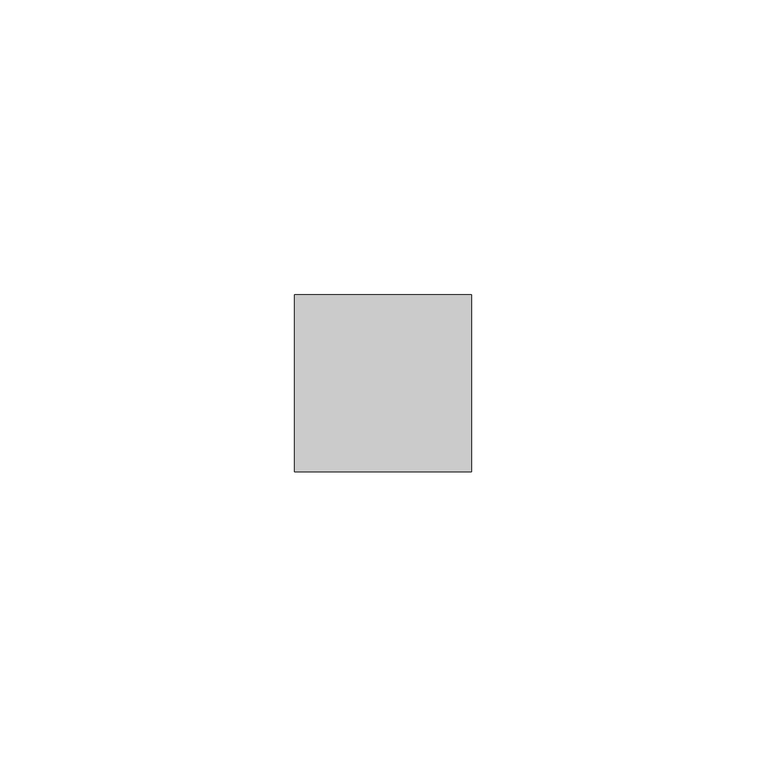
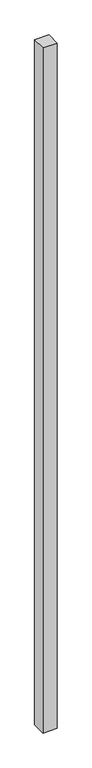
"""IFC4 building model written with IfcOpenShell, lengths in millimetres: member geometry, 矩形竖梃 : 30mm 正方形."""

import ifcopenshell
import ifcopenshell.guid

model = None  # the IFC model being written
_history = None  # IfcOwnerHistory: only IFC2X3 demands one
_inside = {}  # id of a spatial element -> (the spatial element, [elements in it])
_under = {}  # id of a project, library or spatial element -> (it, [spatial elements below it])
_declared = {}  # id of a project -> (the project, [libraries it declares])
_typed = {}  # id of a type object -> (the type object, [elements of that type])
_made_of = {}  # id of a material, layer set ... -> (it, [elements and type objects made of it])


def new_model(schema):
    """Start an empty IFC model of exactly this schema.

    Asked for "IFC4X3", IfcOpenShell would pick the latest addendum, in which some entities
    have other attributes; the version numbers below select the first issue.
    IFC2X3 requires an IfcOwnerHistory on every rooted entity: one is made here for all.
    """
    global model, _history
    if schema == "IFC4X3":
        model = ifcopenshell.file(schema_version=(4, 3, 0, 0))
    else:
        model = ifcopenshell.file(schema=schema)
    _inside.clear()
    _under.clear()
    _declared.clear()
    _typed.clear()
    _made_of.clear()
    _history = None
    if model.schema == "IFC2X3":
        org = make("IfcOrganization", Name="unknown")
        user = make(
            "IfcPersonAndOrganization",
            ThePerson=make("IfcPerson", FamilyName="unknown"),
            TheOrganization=org,
        )
        app = make(
            "IfcApplication",
            ApplicationDeveloper=org,
            Version="unknown",
            ApplicationFullName="unknown",
            ApplicationIdentifier="unknown",
        )
        _history = make(
            "IfcOwnerHistory",
            OwningUser=user,
            OwningApplication=app,
            ChangeAction="ADDED",
            CreationDate=0,
        )
    return model


def make(cls, **values):
    """One entity of the class cls with the attributes given. An attribute that is None is left unset."""
    return model.create_entity(
        cls, **{name: value for name, value in values.items() if value is not None}
    )


def rooted(cls, **values):
    """An entity with a GlobalId (a new one), such as an element, a storey or a relation."""
    return make(cls, GlobalId=ifcopenshell.guid.new(), OwnerHistory=_history, **values)


def si_unit(unit_type, name, prefix=None):
    """IfcSIUnit, for example si_unit("LENGTHUNIT", "METRE", prefix="MILLI")."""
    return make("IfcSIUnit", UnitType=unit_type, Prefix=prefix, Name=name)


def assignment(units):
    """IfcUnitAssignment: the units of a project."""
    return None if units is None else make("IfcUnitAssignment", Units=units)


def point(xyz):
    """IfcCartesianPoint."""
    return None if xyz is None else make("IfcCartesianPoint", Coordinates=xyz)


def direction(xyz):
    """IfcDirection."""
    return None if xyz is None else make("IfcDirection", DirectionRatios=xyz)


def frame(location, z_axis=None, x_axis=None):
    """IfcAxis2Placement3D, a coordinate frame: its origin and axes. An axis left out is left unset."""
    return make(
        "IfcAxis2Placement3D",
        Location=point(location),
        Axis=direction(z_axis),
        RefDirection=direction(x_axis),
    )


def origin():
    """The frame at (0, 0, 0) with its axes left unset."""
    return frame((0.0, 0.0, 0.0))


def place(relative_to, where):
    """IfcLocalPlacement: puts the frame where relative to a parent placement (None: the world)."""
    return make(
        "IfcLocalPlacement", PlacementRelTo=relative_to, RelativePlacement=where
    )


def context(
    kind, dimensions, precision=None, world=None, true_north=None, identifier=None
):
    """IfcGeometricRepresentationContext, for example the 3D "Model" context."""
    return make(
        "IfcGeometricRepresentationContext",
        ContextIdentifier=identifier,
        ContextType=kind,
        CoordinateSpaceDimension=dimensions,
        Precision=precision,
        WorldCoordinateSystem=world,
        TrueNorth=true_north,
    )


def project(units=None, contexts=None):
    """IfcProject with its units and contexts."""
    return rooted(
        "IfcProject",
        Name="project",
        RepresentationContexts=contexts,
        UnitsInContext=assignment(units),
    )


def spatial(cls, under=None, at=None, **own):
    """A site, building, storey or space (cls), placed at a placement, below another one or the project."""
    s = rooted(cls, ObjectPlacement=at, **own)
    if under is not None:
        _under.setdefault(under.id(), (under, []))[1].append(s)
    return s


def polyline(points):
    """IfcPolyline through the points."""
    return make("IfcPolyline", Points=[point(p) for p in points])


def outline(outer, holes=None, kind="AREA"):
    """IfcArbitraryClosedProfileDef: a profile drawn as a closed curve; with holes, ...WithVoids."""
    if holes is None:
        return make("IfcArbitraryClosedProfileDef", ProfileType=kind, OuterCurve=outer)
    return make(
        "IfcArbitraryProfileDefWithVoids",
        ProfileType=kind,
        OuterCurve=outer,
        InnerCurves=holes,
    )


def extrude(swept, where, along, depth):
    """IfcExtrudedAreaSolid: the profile swept, set in the frame where, extruded along a direction by depth."""
    return make(
        "IfcExtrudedAreaSolid",
        SweptArea=swept,
        Position=where,
        ExtrudedDirection=direction(along),
        Depth=depth,
    )


def shape(context_of_items, identifier, shape_type, items):
    """IfcShapeRepresentation: the items that make up one representation, for example the "Body"."""
    return make(
        "IfcShapeRepresentation",
        ContextOfItems=context_of_items,
        RepresentationIdentifier=identifier,
        RepresentationType=shape_type,
        Items=items,
    )


def source(mapping_origin, context_of_items, identifier, shape_type, items):
    """IfcRepresentationMap: a shape defined once, which mapped items show again and again."""
    return make(
        "IfcRepresentationMap",
        MappingOrigin=mapping_origin,
        MappedRepresentation=shape(context_of_items, identifier, shape_type, items),
    )


def transform(
    local_origin,
    x_axis=None,
    y_axis=None,
    z_axis=None,
    scale=None,
    scale2=None,
    scale3=None,
    uniform=True,
):
    """IfcCartesianTransformationOperator3D, or its non-uniform kind. x_axis, y_axis, z_axis: its Axis1, 2, 3."""
    if uniform:
        return make(
            "IfcCartesianTransformationOperator3D",
            Axis1=direction(x_axis),
            Axis2=direction(y_axis),
            LocalOrigin=point(local_origin),
            Scale=scale,
            Axis3=direction(z_axis),
        )
    return make(
        "IfcCartesianTransformationOperator3DnonUniform",
        Axis1=direction(x_axis),
        Axis2=direction(y_axis),
        LocalOrigin=point(local_origin),
        Scale=scale,
        Axis3=direction(z_axis),
        Scale2=scale2,
        Scale3=scale3,
    )


def mapped(mapping_source, mapping_target):
    """IfcMappedItem: shows the shape of a source again, moved by a transform."""
    return make(
        "IfcMappedItem", MappingSource=mapping_source, MappingTarget=mapping_target
    )


def made_of(thing, what):
    """Note that an element or type object is made of a material, layer set ...; save() writes the relation."""
    if what is not None:
        _made_of.setdefault(what.id(), (what, []))[1].append(thing)
    return thing


def element(
    cls,
    number,
    at=None,
    inside=None,
    cuts=None,
    type_object=None,
    material=None,
    context=None,
    identifier="Body",
    shape_type=None,
    held_by="IfcProductDefinitionShape",
    body=None,
    shapes=None,
    **own,
):
    """One element of the class cls, such as IfcWall. Its Tag is "e" and its number.

    at: its placement. inside: the storey or other place that contains it. cuts: it is an
    opening in that element (IfcRelVoidsElement). A single representation is given by context,
    identifier, shape_type and body (its items); several are given by shapes. held_by: the class
    of the entity that holds the representations. save() writes the other relations.
    """
    e = rooted(cls, Tag="e%d" % number, ObjectPlacement=at, **own)
    if body is not None:
        shapes = [shape(context, identifier, shape_type, body)]
    if shapes is not None:
        e.Representation = make(held_by, Representations=shapes)
    if inside is not None:
        _inside.setdefault(inside.id(), (inside, []))[1].append(e)
    if cuts is not None:
        rooted(
            "IfcRelVoidsElement", RelatingBuildingElement=cuts, RelatedOpeningElement=e
        )
    if type_object is not None:
        _typed.setdefault(type_object.id(), (type_object, []))[1].append(e)
    return made_of(e, material)


def aggregate(whole, parts):
    """IfcRelAggregates: a whole, such as a stair, and the parts it consists of."""
    return rooted("IfcRelAggregates", RelatingObject=whole, RelatedObjects=parts)


def save(model, path):
    """Write the relations noted so far, then the file.

    IfcRelAggregates (storeys below a building ...), IfcRelContainedInSpatialStructure (elements
    in a storey), IfcRelDefinesByType, IfcRelAssociatesMaterial and IfcRelDeclares: one each for
    every whole, place, type object, material and project.
    """
    for whole, parts in _under.values():
        aggregate(whole, parts)
    for where, things in _inside.values():
        rooted(
            "IfcRelContainedInSpatialStructure",
            RelatedElements=things,
            RelatingStructure=where,
        )
    for kind, things in _typed.values():
        rooted("IfcRelDefinesByType", RelatedObjects=things, RelatingType=kind)
    for what, things in _made_of.values():
        rooted("IfcRelAssociatesMaterial", RelatedObjects=things, RelatingMaterial=what)
    for by, libraries in _declared.values():
        rooted("IfcRelDeclares", RelatingContext=by, RelatedDefinitions=libraries)
    model.write(path)


def member_e4634f50(model_context):
    return source(origin(), model_context, "Body", "SweptSolid", [
        extrude(outline(polyline([(15.0, 15.0), (15.0, -15.0), (-15.0, -15.0), (-15.0, 15.0), (15.0, 15.0)])), frame((0.0, 0.0, -1535.0), z_axis=(0.0, 0.0, 1.0), x_axis=(1.0, 0.0, 0.0)), (0.0, 0.0, 1.0), 1535.0),
    ])


if __name__ == "__main__":
    model = new_model("IFC4")
    model_context = context("Model", 3, world=origin())
    ifc_project = project(units=[si_unit("LENGTHUNIT", "METRE", prefix="MILLI")], contexts=[model_context])
    site = spatial("IfcSite", under=ifc_project)
    building = spatial("IfcBuilding", under=site)
    placement = place(None, origin())
    member_shape = member_e4634f50(model_context)
    element("IfcMember", 1, ObjectType="矩形竖梃 : 30mm 正方形", at=placement, inside=building, context=model_context, shape_type="MappedRepresentation", body=[
        mapped(member_shape, transform((0.0, 0.0, 0.0), x_axis=(1.0, 0.0, 0.0), y_axis=(0.0, 1.0, 0.0), z_axis=(0.0, 0.0, 1.0))),
    ])
    save(model, "model.ifc")
